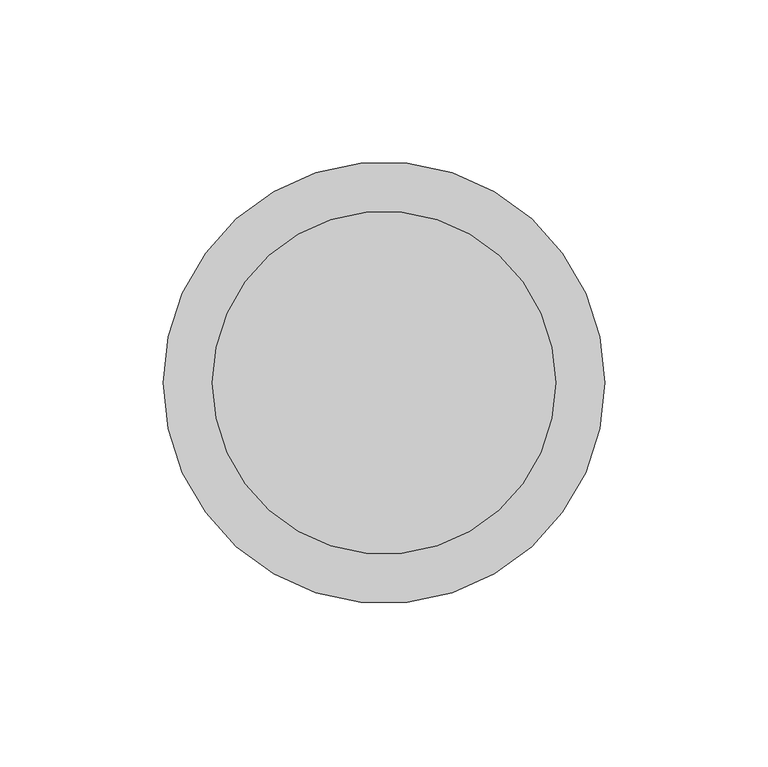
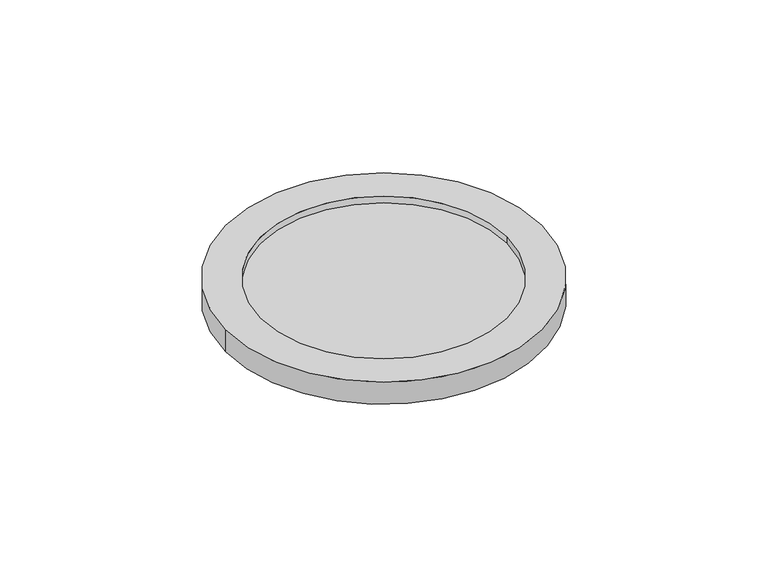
"""IFC4 building model written with IfcOpenShell, lengths in millimetres: light fixture geometry, Lumin techo_sin anfitrion : Luminarias."""

from ifc_helpers import new_model, si_unit, point, frame, origin, origin_2d, place, context, project, spatial, circle_curve, trimmed, segment, composite_curve, outline, extrude, source, transform, mapped, element, save


def light_fixture_af03ce5b(model_context):
    return source(origin(), model_context, "Body", "SweptSolid", [
        extrude(outline(composite_curve([segment(trimmed(circle_curve(origin_2d(), 52.5), [point((52.5, 0.0))], [point((-52.5, 0.0))], False, "CARTESIAN"), True, "CONTINUOUS"), segment(trimmed(circle_curve(origin_2d(), 52.5), [point((-52.5, 0.0))], [point((52.5, 0.0))], False, "CARTESIAN"), True, "CONTINUOUS")], self_intersect=False)), frame((0.0, 0.0, 2762.0), z_axis=(0.0, 0.0, 1.0), x_axis=(1.0, 0.0, 0.0)), (0.0, 0.0, 1.0), 5.0),
        extrude(outline(composite_curve([segment(trimmed(circle_curve(origin_2d(), 67.5), [point((-67.5, 0.0))], [point((67.5, 0.0))], False, "CARTESIAN"), True, "CONTINUOUS"), segment(trimmed(circle_curve(origin_2d(), 67.5), [point((67.5, 0.0))], [point((-67.5, 0.0))], False, "CARTESIAN"), True, "CONTINUOUS")], self_intersect=False), holes=[composite_curve([segment(trimmed(circle_curve(origin_2d(), 52.5), [point((-52.5, 0.0))], [point((52.5, 0.0))], True, "CARTESIAN"), True, "CONTINUOUS"), segment(trimmed(circle_curve(origin_2d(), 52.5), [point((52.5, 0.0))], [point((-52.5, 0.0))], True, "CARTESIAN"), True, "CONTINUOUS")], self_intersect=False)]), frame((0.0, 0.0, 2760.0), z_axis=(0.0, 0.0, 1.0), x_axis=(1.0, 0.0, 0.0)), (0.0, 0.0, 1.0), 10.0),
    ])


if __name__ == "__main__":
    model = new_model("IFC4")
    model_context = context("Model", 3, world=origin())
    ifc_project = project(units=[si_unit("LENGTHUNIT", "METRE", prefix="MILLI")], contexts=[model_context])
    site = spatial("IfcSite", under=ifc_project)
    building = spatial("IfcBuilding", under=site)
    placement = place(None, origin())
    light_fixture_shape = light_fixture_af03ce5b(model_context)
    element("IfcLightFixture", 1, ObjectType="Lumin techo_sin anfitrion : Luminarias", at=placement, inside=building, context=model_context, shape_type="MappedRepresentation", body=[
        mapped(light_fixture_shape, transform((0.0, 0.0, 0.0), x_axis=(1.0, 0.0, 0.0), y_axis=(0.0, 1.0, 0.0), z_axis=(0.0, 0.0, 1.0))),
    ])
    save(model, "model.ifc")
